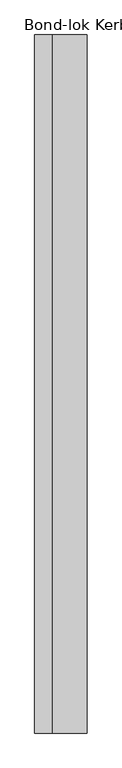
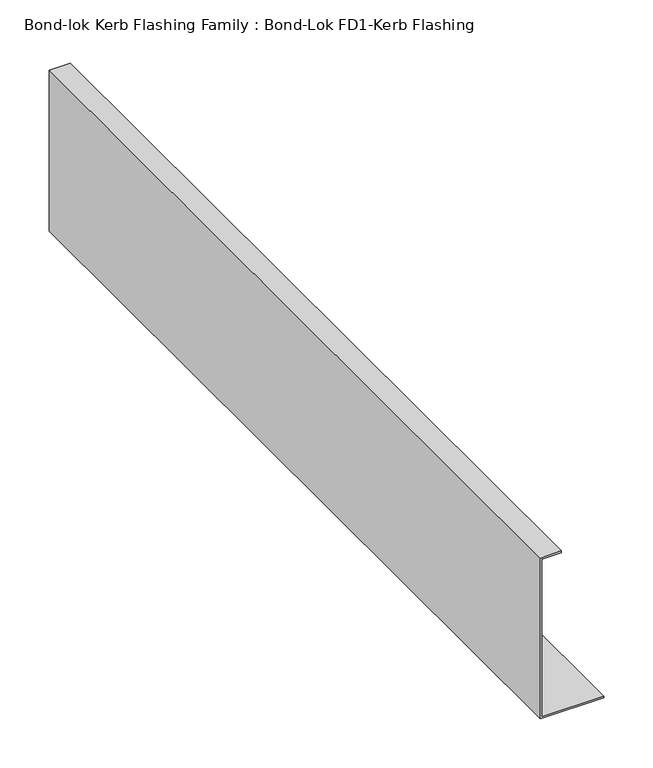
"""IFC4 building model written with IfcOpenShell, lengths in millimetres: proxy geometry, Bond-lok Kerb Flashing Family : Bond-Lok FD1-Kerb Flashing."""

from ifc_helpers import new_model, si_unit, frame, origin, place, context, project, spatial, polyline, outline, extrude, source, transform, mapped, element, save


def bond_lok_kerb_flashing_family_bond_lok_fd1_kerb_flashing_c5977c4c(model_context):
    return source(origin(), model_context, "Body", "SweptSolid", [
        extrude(outline(polyline([(2.5331951, 0.0), (2.5331951, 75.0), (4.5331951, 75.0), (4.5331951, 2.0), (200.5331951, 2.0), (200.5331951, 25.0), (202.5331951, 25.0), (202.5331951, 0.0), (2.5331951, 0.0)])), frame((0.0, -500.0, 0.0), z_axis=(0.0, 1.0, 0.0), x_axis=(0.0, 0.0, 1.0)), (0.0, 0.0, 1.0), 1000.0),
    ])


if __name__ == "__main__":
    model = new_model("IFC4")
    model_context = context("Model", 3, world=origin())
    ifc_project = project(units=[si_unit("LENGTHUNIT", "METRE", prefix="MILLI")], contexts=[model_context])
    site = spatial("IfcSite", under=ifc_project)
    building = spatial("IfcBuilding", under=site)
    placement = place(None, origin())
    bond_lok_kerb_flashing_family_bond_lok_fd1_kerb_flashing_shape = bond_lok_kerb_flashing_family_bond_lok_fd1_kerb_flashing_c5977c4c(model_context)
    element("IfcBuildingElementProxy", 1, Name="Bond-lok Kerb Flashing Family : Bond-Lok FD1-Kerb Flashing", ObjectType="Bond-lok Kerb Flashing Family : Bond-Lok FD1-Kerb Flashing", at=placement, inside=building, context=model_context, shape_type="MappedRepresentation", body=[
        mapped(bond_lok_kerb_flashing_family_bond_lok_fd1_kerb_flashing_shape, transform((0.0, 0.0, 0.0), x_axis=(1.0, 0.0, 0.0), y_axis=(0.0, 1.0, 0.0), z_axis=(0.0, 0.0, 1.0))),
    ])
    save(model, "model.ifc")
